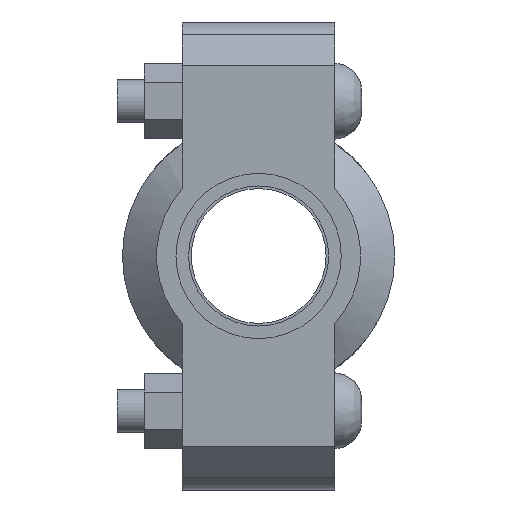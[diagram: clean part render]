
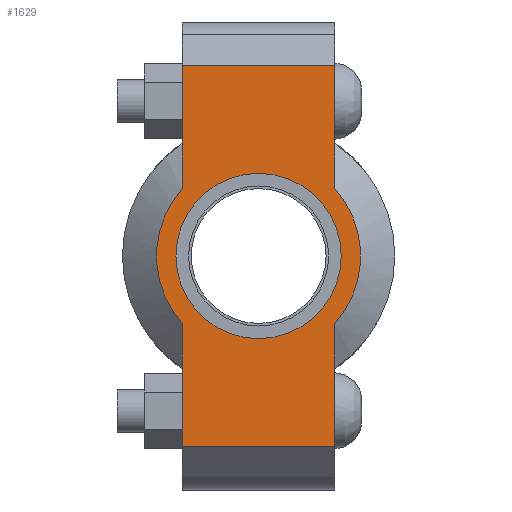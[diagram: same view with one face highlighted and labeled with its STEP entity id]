
A CAD part, left-side view. The second image highlights one B-rep face of the part: STEP entity #1629.
In plain terms, the highlighted planar face has unit normal (-1, 0, 0) as drawn and (0, 0, 1) by its records, which use the part's own axes.
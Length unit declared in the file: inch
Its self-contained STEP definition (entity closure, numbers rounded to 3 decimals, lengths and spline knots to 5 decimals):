
#184=LINE('',#2817,#281);
#199=LINE('',#2876,#296);
#207=LINE('',#2906,#304);
#209=LINE('',#2909,#306);
#210=LINE('',#2914,#307);
#211=LINE('',#2915,#308);
#281=VECTOR('',#2289,0.3937);
#296=VECTOR('',#2324,0.3937);
#304=VECTOR('',#2344,0.3937);
#306=VECTOR('',#2348,0.3937);
#307=VECTOR('',#2353,0.3937);
#308=VECTOR('',#2354,0.3937);
#372=FACE_BOUND('',#549,.T.);
#440=FACE_OUTER_BOUND('',#548,.T.);
#548=EDGE_LOOP('',(#1330,#1331,#1332,#1333,#1334,#1335,#1336,#1337));
#549=EDGE_LOOP('',(#1338));
#631=CIRCLE('',#1857,0.95);
#655=CIRCLE('',#1909,1.172);
#656=CIRCLE('',#1910,1.172);
#727=VERTEX_POINT('',#2643);
#768=VERTEX_POINT('',#2814);
#769=VERTEX_POINT('',#2816);
#790=VERTEX_POINT('',#2871);
#791=VERTEX_POINT('',#2875);
#800=VERTEX_POINT('',#2901);
#801=VERTEX_POINT('',#2905);
#802=VERTEX_POINT('',#2911);
#803=VERTEX_POINT('',#2913);
#891=EDGE_CURVE('',#727,#727,#631,.T.);
#948=EDGE_CURVE('',#769,#768,#184,.T.);
#973=EDGE_CURVE('',#791,#790,#199,.T.);
#986=EDGE_CURVE('',#801,#800,#207,.T.);
#988=EDGE_CURVE('',#801,#768,#209,.T.);
#989=EDGE_CURVE('',#800,#802,#655,.T.);
#990=EDGE_CURVE('',#802,#803,#210,.T.);
#991=EDGE_CURVE('',#791,#803,#211,.T.);
#992=EDGE_CURVE('',#790,#769,#656,.T.);
#1330=ORIENTED_EDGE('',*,*,#988,.F.);
#1331=ORIENTED_EDGE('',*,*,#986,.T.);
#1332=ORIENTED_EDGE('',*,*,#989,.T.);
#1333=ORIENTED_EDGE('',*,*,#990,.T.);
#1334=ORIENTED_EDGE('',*,*,#991,.F.);
#1335=ORIENTED_EDGE('',*,*,#973,.T.);
#1336=ORIENTED_EDGE('',*,*,#992,.T.);
#1337=ORIENTED_EDGE('',*,*,#948,.T.);
#1338=ORIENTED_EDGE('',*,*,#891,.T.);
#1469=PLANE('',#1908);
#1629=ADVANCED_FACE('',(#440,#372),#1469,.T.);
#1857=AXIS2_PLACEMENT_3D('',#2645,#2179,#2180);
#1908=AXIS2_PLACEMENT_3D('',#2910,#2349,#2350);
#1909=AXIS2_PLACEMENT_3D('',#2912,#2351,#2352);
#1910=AXIS2_PLACEMENT_3D('',#2916,#2355,#2356);
#2179=DIRECTION('center_axis',(0.,0.,-1.));
#2180=DIRECTION('ref_axis',(-1.,0.,0.));
#2289=DIRECTION('',(-1.,0.,0.));
#2324=DIRECTION('',(-1.,0.,0.));
#2344=DIRECTION('',(1.,0.,0.));
#2348=DIRECTION('',(0.,1.,0.));
#2349=DIRECTION('center_axis',(0.,0.,1.));
#2350=DIRECTION('ref_axis',(1.,0.,0.));
#2351=DIRECTION('center_axis',(0.,0.,1.));
#2352=DIRECTION('ref_axis',(-1.,0.,0.));
#2353=DIRECTION('',(1.,0.,0.));
#2354=DIRECTION('',(0.,-1.,0.));
#2355=DIRECTION('center_axis',(0.,0.,1.));
#2356=DIRECTION('ref_axis',(-1.,0.,0.));
#2643=CARTESIAN_POINT('',(0.95,0.,0.94));
#2645=CARTESIAN_POINT('Origin',(0.,0.,0.94));
#2814=CARTESIAN_POINT('',(-2.19,0.875,0.94));
#2816=CARTESIAN_POINT('',(-0.77972,0.875,0.94));
#2817=CARTESIAN_POINT('',(2.69,0.875,0.94));
#2871=CARTESIAN_POINT('',(0.77972,0.875,0.94));
#2875=CARTESIAN_POINT('',(2.19,0.875,0.94));
#2876=CARTESIAN_POINT('',(2.69,0.875,0.94));
#2901=CARTESIAN_POINT('',(-0.77972,-0.875,0.94));
#2905=CARTESIAN_POINT('',(-2.19,-0.875,0.94));
#2906=CARTESIAN_POINT('',(-2.69,-0.875,0.94));
#2909=CARTESIAN_POINT('',(-2.19,0.4375,0.94));
#2910=CARTESIAN_POINT('Origin',(0.,0.,0.94));
#2911=CARTESIAN_POINT('',(0.77972,-0.875,0.94));
#2912=CARTESIAN_POINT('Origin',(0.,0.,0.94));
#2913=CARTESIAN_POINT('',(2.19,-0.875,0.94));
#2914=CARTESIAN_POINT('',(-2.69,-0.875,0.94));
#2915=CARTESIAN_POINT('',(2.19,-0.4375,0.94));
#2916=CARTESIAN_POINT('Origin',(0.,0.,0.94));
